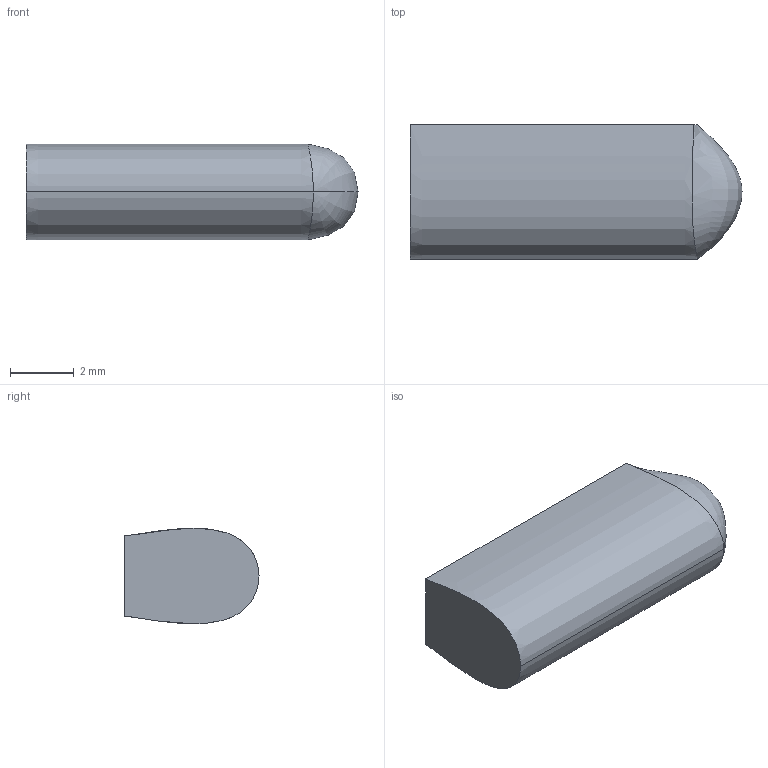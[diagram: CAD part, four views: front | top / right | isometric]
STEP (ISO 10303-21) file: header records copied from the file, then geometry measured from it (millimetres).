
FILE_DESCRIPTION((''),'1');
FILE_NAME('ELEK-ST14-22R','2001-03-30T',('rgoetz'),(''),'PRO/ENGINEER BY PARAMETRIC TECHNOLOGY CORPORATION, 2000350','PRO/ENGINEER BY PARAMETRIC TECHNOLOGY CORPORATION, 2000350','');
FILE_SCHEMA(('CONFIG_CONTROL_DESIGN'));
Length unit declared in the file: millimetre
Products named in the file (1): ELEK-ST14-22R
Bounding box: 10.4 x 4.2 x 3 mm (x, y, z)
Volume: 107.7 mm3; surface area: 140.7 mm2
Topology: 1 solids, 1 shells, 6 faces, 13 edges, 7 vertices
Faces by surface type: plane 2, extrusion 2, bspline 2
Entity records: 647 total; most frequent: CARTESIAN_POINT 506, ORIENTED_EDGE 22, EDGE_CURVE 11, DIRECTION 10, B_SPLINE_CURVE_WITH_KNOTS 9, VERTEX_POINT 7, VECTOR 6, EDGE_LOOP 6
